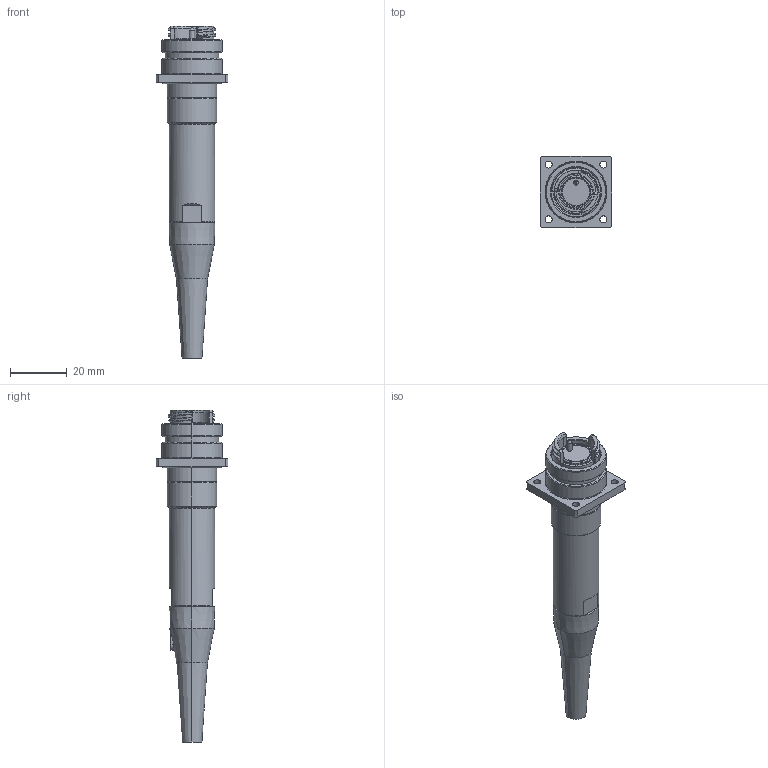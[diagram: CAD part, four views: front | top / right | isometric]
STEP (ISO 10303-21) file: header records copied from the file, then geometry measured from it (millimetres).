
FILE_DESCRIPTION (( 'STEP AP214' ), '1' );
FILE_NAME ('QMICRO-RFXX-XXXX-SX5.STEP', '2025-05-02T23:44:41', ( '' ), ( '' ), 'SwSTEP 2.0', 'SolidWorks 2024', '' );
FILE_SCHEMA (( 'AUTOMOTIVE_DESIGN' ));
Length unit declared in the file: inch
Products named in the file (1): QMICRO-RFXX-XXXX-SX5
Bounding box: 25.25 x 25.25 x 116.82 mm (x, y, z)
Volume: 19786.1 mm3; surface area: 9493.4 mm2
Topology: 1 solids, 2 shells, 211 faces, 497 edges, 309 vertices
Faces by surface type: cylinder 77, plane 48, cone 47, torus 23, bspline 16
Entity records: 9281 total; most frequent: CARTESIAN_POINT 4490, DIRECTION 1012, ORIENTED_EDGE 994, EDGE_CURVE 497, AXIS2_PLACEMENT_3D 419, VERTEX_POINT 309, EDGE_LOOP 240, CIRCLE 223
